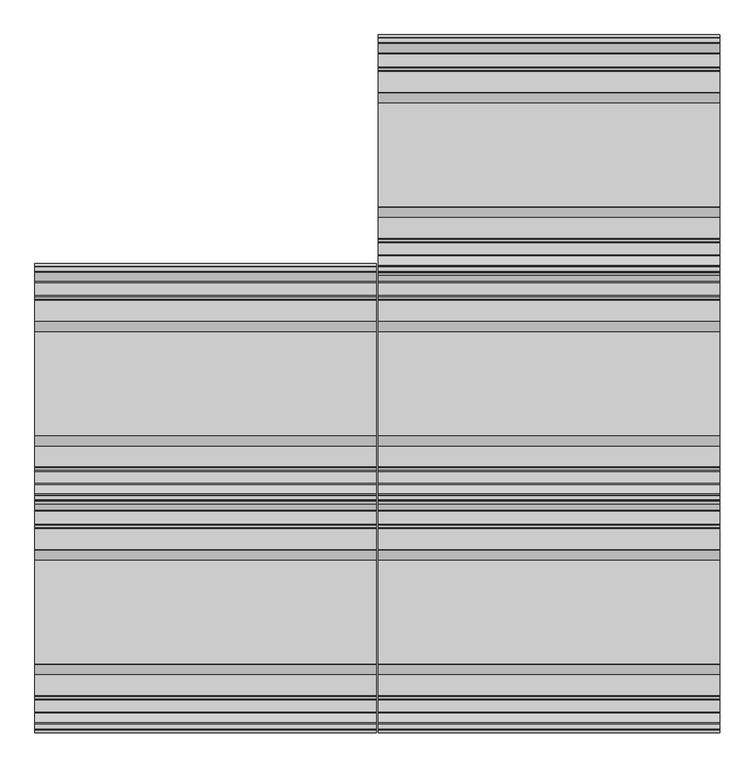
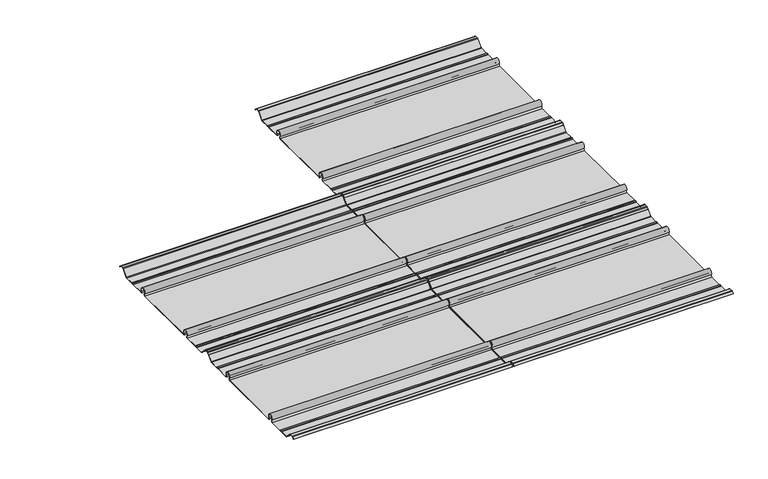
"""IFC4 building model written with IfcOpenShell, lengths in millimetres: proxy geometry, Xlath : Xlath."""

import ifcopenshell
import ifcopenshell.guid

model = None  # the IFC model being written
_history = None  # IfcOwnerHistory: only IFC2X3 demands one
_inside = {}  # id of a spatial element -> (the spatial element, [elements in it])
_under = {}  # id of a project, library or spatial element -> (it, [spatial elements below it])
_declared = {}  # id of a project -> (the project, [libraries it declares])
_typed = {}  # id of a type object -> (the type object, [elements of that type])
_made_of = {}  # id of a material, layer set ... -> (it, [elements and type objects made of it])


def new_model(schema):
    """Start an empty IFC model of exactly this schema.

    Asked for "IFC4X3", IfcOpenShell would pick the latest addendum, in which some entities
    have other attributes; the version numbers below select the first issue.
    IFC2X3 requires an IfcOwnerHistory on every rooted entity: one is made here for all.
    """
    global model, _history
    if schema == "IFC4X3":
        model = ifcopenshell.file(schema_version=(4, 3, 0, 0))
    else:
        model = ifcopenshell.file(schema=schema)
    _inside.clear()
    _under.clear()
    _declared.clear()
    _typed.clear()
    _made_of.clear()
    _history = None
    if model.schema == "IFC2X3":
        org = make("IfcOrganization", Name="unknown")
        user = make(
            "IfcPersonAndOrganization",
            ThePerson=make("IfcPerson", FamilyName="unknown"),
            TheOrganization=org,
        )
        app = make(
            "IfcApplication",
            ApplicationDeveloper=org,
            Version="unknown",
            ApplicationFullName="unknown",
            ApplicationIdentifier="unknown",
        )
        _history = make(
            "IfcOwnerHistory",
            OwningUser=user,
            OwningApplication=app,
            ChangeAction="ADDED",
            CreationDate=0,
        )
    return model


def make(cls, **values):
    """One entity of the class cls with the attributes given. An attribute that is None is left unset."""
    return model.create_entity(
        cls, **{name: value for name, value in values.items() if value is not None}
    )


def rooted(cls, **values):
    """An entity with a GlobalId (a new one), such as an element, a storey or a relation."""
    return make(cls, GlobalId=ifcopenshell.guid.new(), OwnerHistory=_history, **values)


def si_unit(unit_type, name, prefix=None):
    """IfcSIUnit, for example si_unit("LENGTHUNIT", "METRE", prefix="MILLI")."""
    return make("IfcSIUnit", UnitType=unit_type, Prefix=prefix, Name=name)


def assignment(units):
    """IfcUnitAssignment: the units of a project."""
    return None if units is None else make("IfcUnitAssignment", Units=units)


def point(xyz):
    """IfcCartesianPoint."""
    return None if xyz is None else make("IfcCartesianPoint", Coordinates=xyz)


def direction(xyz):
    """IfcDirection."""
    return None if xyz is None else make("IfcDirection", DirectionRatios=xyz)


def frame(location, z_axis=None, x_axis=None):
    """IfcAxis2Placement3D, a coordinate frame: its origin and axes. An axis left out is left unset."""
    return make(
        "IfcAxis2Placement3D",
        Location=point(location),
        Axis=direction(z_axis),
        RefDirection=direction(x_axis),
    )


def frame_2d(location, x_axis=None):
    """IfcAxis2Placement2D, a coordinate frame in the plane: its origin and x axis."""
    return make(
        "IfcAxis2Placement2D", Location=point(location), RefDirection=direction(x_axis)
    )


def origin():
    """The frame at (0, 0, 0) with its axes left unset."""
    return frame((0.0, 0.0, 0.0))


def place(relative_to, where):
    """IfcLocalPlacement: puts the frame where relative to a parent placement (None: the world)."""
    return make(
        "IfcLocalPlacement", PlacementRelTo=relative_to, RelativePlacement=where
    )


def context(
    kind, dimensions, precision=None, world=None, true_north=None, identifier=None
):
    """IfcGeometricRepresentationContext, for example the 3D "Model" context."""
    return make(
        "IfcGeometricRepresentationContext",
        ContextIdentifier=identifier,
        ContextType=kind,
        CoordinateSpaceDimension=dimensions,
        Precision=precision,
        WorldCoordinateSystem=world,
        TrueNorth=true_north,
    )


def project(units=None, contexts=None):
    """IfcProject with its units and contexts."""
    return rooted(
        "IfcProject",
        Name="project",
        RepresentationContexts=contexts,
        UnitsInContext=assignment(units),
    )


def spatial(cls, under=None, at=None, **own):
    """A site, building, storey or space (cls), placed at a placement, below another one or the project."""
    s = rooted(cls, ObjectPlacement=at, **own)
    if under is not None:
        _under.setdefault(under.id(), (under, []))[1].append(s)
    return s


def polyline(points):
    """IfcPolyline through the points."""
    return make("IfcPolyline", Points=[point(p) for p in points])


def circle_curve(where, radius):
    """IfcCircle in the frame where."""
    return make("IfcCircle", Position=where, Radius=radius)


def trimmed(basis, trim1, trim2, sense, master):
    """IfcTrimmedCurve: the piece of a basis curve between two trims."""
    return make(
        "IfcTrimmedCurve",
        BasisCurve=basis,
        Trim1=trim1,
        Trim2=trim2,
        SenseAgreement=sense,
        MasterRepresentation=master,
    )


def segment(curve, same_sense, transition):
    """IfcCompositeCurveSegment."""
    return make(
        "IfcCompositeCurveSegment",
        Transition=transition,
        SameSense=same_sense,
        ParentCurve=curve,
    )


def composite_curve(segments, self_intersect=None):
    """IfcCompositeCurve: segments joined end to end."""
    return make("IfcCompositeCurve", Segments=segments, SelfIntersect=self_intersect)


def outline(outer, holes=None, kind="AREA"):
    """IfcArbitraryClosedProfileDef: a profile drawn as a closed curve; with holes, ...WithVoids."""
    if holes is None:
        return make("IfcArbitraryClosedProfileDef", ProfileType=kind, OuterCurve=outer)
    return make(
        "IfcArbitraryProfileDefWithVoids",
        ProfileType=kind,
        OuterCurve=outer,
        InnerCurves=holes,
    )


def extrude(swept, where, along, depth):
    """IfcExtrudedAreaSolid: the profile swept, set in the frame where, extruded along a direction by depth."""
    return make(
        "IfcExtrudedAreaSolid",
        SweptArea=swept,
        Position=where,
        ExtrudedDirection=direction(along),
        Depth=depth,
    )


def shape(context_of_items, identifier, shape_type, items):
    """IfcShapeRepresentation: the items that make up one representation, for example the "Body"."""
    return make(
        "IfcShapeRepresentation",
        ContextOfItems=context_of_items,
        RepresentationIdentifier=identifier,
        RepresentationType=shape_type,
        Items=items,
    )


def source(mapping_origin, context_of_items, identifier, shape_type, items):
    """IfcRepresentationMap: a shape defined once, which mapped items show again and again."""
    return make(
        "IfcRepresentationMap",
        MappingOrigin=mapping_origin,
        MappedRepresentation=shape(context_of_items, identifier, shape_type, items),
    )


def transform(
    local_origin,
    x_axis=None,
    y_axis=None,
    z_axis=None,
    scale=None,
    scale2=None,
    scale3=None,
    uniform=True,
):
    """IfcCartesianTransformationOperator3D, or its non-uniform kind. x_axis, y_axis, z_axis: its Axis1, 2, 3."""
    if uniform:
        return make(
            "IfcCartesianTransformationOperator3D",
            Axis1=direction(x_axis),
            Axis2=direction(y_axis),
            LocalOrigin=point(local_origin),
            Scale=scale,
            Axis3=direction(z_axis),
        )
    return make(
        "IfcCartesianTransformationOperator3DnonUniform",
        Axis1=direction(x_axis),
        Axis2=direction(y_axis),
        LocalOrigin=point(local_origin),
        Scale=scale,
        Axis3=direction(z_axis),
        Scale2=scale2,
        Scale3=scale3,
    )


def mapped(mapping_source, mapping_target):
    """IfcMappedItem: shows the shape of a source again, moved by a transform."""
    return make(
        "IfcMappedItem", MappingSource=mapping_source, MappingTarget=mapping_target
    )


def made_of(thing, what):
    """Note that an element or type object is made of a material, layer set ...; save() writes the relation."""
    if what is not None:
        _made_of.setdefault(what.id(), (what, []))[1].append(thing)
    return thing


def element(
    cls,
    number,
    at=None,
    inside=None,
    cuts=None,
    type_object=None,
    material=None,
    context=None,
    identifier="Body",
    shape_type=None,
    held_by="IfcProductDefinitionShape",
    body=None,
    shapes=None,
    **own,
):
    """One element of the class cls, such as IfcWall. Its Tag is "e" and its number.

    at: its placement. inside: the storey or other place that contains it. cuts: it is an
    opening in that element (IfcRelVoidsElement). A single representation is given by context,
    identifier, shape_type and body (its items); several are given by shapes. held_by: the class
    of the entity that holds the representations. save() writes the other relations.
    """
    e = rooted(cls, Tag="e%d" % number, ObjectPlacement=at, **own)
    if body is not None:
        shapes = [shape(context, identifier, shape_type, body)]
    if shapes is not None:
        e.Representation = make(held_by, Representations=shapes)
    if inside is not None:
        _inside.setdefault(inside.id(), (inside, []))[1].append(e)
    if cuts is not None:
        rooted(
            "IfcRelVoidsElement", RelatingBuildingElement=cuts, RelatedOpeningElement=e
        )
    if type_object is not None:
        _typed.setdefault(type_object.id(), (type_object, []))[1].append(e)
    return made_of(e, material)


def aggregate(whole, parts):
    """IfcRelAggregates: a whole, such as a stair, and the parts it consists of."""
    return rooted("IfcRelAggregates", RelatingObject=whole, RelatedObjects=parts)


def save(model, path):
    """Write the relations noted so far, then the file.

    IfcRelAggregates (storeys below a building ...), IfcRelContainedInSpatialStructure (elements
    in a storey), IfcRelDefinesByType, IfcRelAssociatesMaterial and IfcRelDeclares: one each for
    every whole, place, type object, material and project.
    """
    for whole, parts in _under.values():
        aggregate(whole, parts)
    for where, things in _inside.values():
        rooted(
            "IfcRelContainedInSpatialStructure",
            RelatedElements=things,
            RelatingStructure=where,
        )
    for kind, things in _typed.values():
        rooted("IfcRelDefinesByType", RelatedObjects=things, RelatingType=kind)
    for what, things in _made_of.values():
        rooted("IfcRelAssociatesMaterial", RelatedObjects=things, RelatingMaterial=what)
    for by, libraries in _declared.values():
        rooted("IfcRelDeclares", RelatingContext=by, RelatedDefinitions=libraries)
    model.write(path)


def generic_models_a1b09e0d(model_context):
    return source(origin(), model_context, "Body", "SweptSolid", [
        extrude(outline(composite_curve([segment(polyline([(-1223.221536, 17.692427), (-1219.2, 13.8209287), (-1219.7628134, 13.2581153), (-1224.0173305, 17.3539026)]), True, "CONTINUOUS"), segment(trimmed(circle_curve(frame_2d((-1225.8934261, 15.4051)), 2.7051), [point((-1224.0173305, 17.3539026))], [point((-1225.8934261, 18.1102))], True, "CARTESIAN"), True, "CONTINUOUS"), segment(polyline([(-1225.8934261, 18.1102), (-1233.0817457, 18.1102)]), True, "CONTINUOUS"), segment(trimmed(circle_curve(frame_2d((-1233.0817457, 15.4051)), 2.7051), [point((-1233.0817457, 18.1102))], [point((-1235.0059623, 17.3064039))], True, "CARTESIAN"), True, "CONTINUOUS"), segment(polyline([(-1235.0059623, 17.3064039), (-1251.1741011, 0.9434226)]), True, "CONTINUOUS"), segment(trimmed(circle_curve(frame_2d((-1253.4325712, 3.175)), 3.175), [point((-1251.1741011, 0.9434226))], [point((-1253.4325712, 0.0))], False, "CARTESIAN"), True, "CONTINUOUS"), segment(polyline([(-1253.4325712, 0.0), (-1276.5486405, 0.0)]), True, "CONTINUOUS"), segment(trimmed(circle_curve(frame_2d((-1276.5486405, 3.175)), 3.175), [point((-1276.5486405, 0.0))], [point((-1278.5419174, 0.70367))], False, "CARTESIAN"), True, "CONTINUOUS"), segment(trimmed(circle_curve(frame_2d((-1280.5351943, -1.7676601)), 3.175), [point((-1278.5419174, 0.70367))], [point((-1282.5284712, 0.70367))], True, "CARTESIAN"), True, "CONTINUOUS"), segment(trimmed(circle_curve(frame_2d((-1284.5217481, 3.175)), 3.175), [point((-1282.5284712, 0.70367))], [point((-1284.5217481, 0.0))], False, "CARTESIAN"), True, "CONTINUOUS"), segment(polyline([(-1284.5217481, 0.0), (-1321.79972, 0.0)]), True, "CONTINUOUS"), segment(trimmed(circle_curve(frame_2d((-1321.79972, 3.3362305)), 3.3362305), [point((-1321.79972, 0.0))], [point((-1324.4911698, 5.3076593))], False, "CARTESIAN"), True, "CONTINUOUS"), segment(trimmed(circle_curve(frame_2d((-1331.0031627, 10.0775533)), 8.0720469), [point((-1324.4911698, 5.3076593))], [point((-1337.5151555, 5.3076593))], True, "CARTESIAN"), True, "CONTINUOUS"), segment(trimmed(circle_curve(frame_2d((-1340.2066054, 3.3362305)), 3.3362305), [point((-1337.5151555, 5.3076593))], [point((-1340.2066054, 0.0))], False, "CARTESIAN"), True, "CONTINUOUS"), segment(polyline([(-1340.2066054, 0.0), (-1525.2308946, 0.0)]), True, "CONTINUOUS"), segment(trimmed(circle_curve(frame_2d((-1525.2308946, 3.3362305)), 3.3362305), [point((-1525.2308946, 0.0))], [point((-1527.9223445, 5.3076593))], False, "CARTESIAN"), True, "CONTINUOUS"), segment(trimmed(circle_curve(frame_2d((-1534.4343373, 10.0775533)), 8.0720469), [point((-1527.9223445, 5.3076593))], [point((-1540.9463302, 5.3076593))], True, "CARTESIAN"), True, "CONTINUOUS"), segment(trimmed(circle_curve(frame_2d((-1543.63778, 3.3362305)), 3.3362305), [point((-1540.9463302, 5.3076593))], [point((-1543.63778, 0.0))], False, "CARTESIAN"), True, "CONTINUOUS"), segment(polyline([(-1543.63778, 0.0), (-1580.9157519, 0.0)]), True, "CONTINUOUS"), segment(trimmed(circle_curve(frame_2d((-1580.9157519, 3.175)), 3.175), [point((-1580.9157519, 0.0))], [point((-1582.9090288, 0.70367))], False, "CARTESIAN"), True, "CONTINUOUS"), segment(trimmed(circle_curve(frame_2d((-1584.9023057, -1.7676601)), 3.175), [point((-1582.9090288, 0.70367))], [point((-1586.8955826, 0.70367))], True, "CARTESIAN"), True, "CONTINUOUS"), segment(trimmed(circle_curve(frame_2d((-1588.8888595, 3.175)), 3.175), [point((-1586.8955826, 0.70367))], [point((-1588.8888595, 0.0))], False, "CARTESIAN"), True, "CONTINUOUS"), segment(polyline([(-1588.8888595, 0.0), (-1610.2183557, 0.0)]), True, "CONTINUOUS"), segment(trimmed(circle_curve(frame_2d((-1610.2183557, 3.175)), 3.175), [point((-1610.2183557, 0.0))], [point((-1612.4768259, 0.9434226))], False, "CARTESIAN"), True, "CONTINUOUS"), segment(polyline([(-1612.4768259, 0.9434226), (-1629.1092693, 17.7763039)]), True, "CONTINUOUS"), segment(trimmed(circle_curve(frame_2d((-1631.0334859, 15.875)), 2.7051), [point((-1629.1092693, 17.7763039))], [point((-1631.0334859, 18.5801))], True, "CARTESIAN"), True, "CONTINUOUS"), segment(polyline([(-1631.0334859, 18.5801), (-1639.5440739, 18.5801)]), True, "CONTINUOUS"), segment(trimmed(circle_curve(frame_2d((-1639.5440739, 15.875)), 2.7051), [point((-1639.5440739, 18.5801))], [point((-1641.4201695, 17.8238026))], True, "CARTESIAN"), True, "CONTINUOUS"), segment(polyline([(-1641.4201695, 17.8238026), (-1645.6855845, 13.717524), (-1646.2483979, 14.2803374), (-1642.215964, 18.162327)]), True, "CONTINUOUS"), segment(trimmed(circle_curve(frame_2d((-1640.0139739, 15.875)), 3.175), [point((-1642.215964, 18.162327))], [point((-1640.0139739, 19.05))], False, "CARTESIAN"), True, "CONTINUOUS"), segment(polyline([(-1640.0139739, 19.05), (-1631.0334859, 19.05)]), True, "CONTINUOUS"), segment(trimmed(circle_curve(frame_2d((-1631.0334859, 15.875)), 3.175), [point((-1631.0334859, 19.05))], [point((-1628.7750157, 18.1065774))], False, "CARTESIAN"), True, "CONTINUOUS"), segment(polyline([(-1628.7750157, 18.1065774), (-1612.1425723, 1.2736961)]), True, "CONTINUOUS"), segment(trimmed(circle_curve(frame_2d((-1610.2183557, 3.175)), 2.7051), [point((-1612.1425723, 1.2736961))], [point((-1610.2183557, 0.4699))], True, "CARTESIAN"), True, "CONTINUOUS"), segment(polyline([(-1610.2183557, 0.4699), (-1589.0514296, 0.4699)]), True, "CONTINUOUS"), segment(trimmed(circle_curve(frame_2d((-1589.0514296, 3.6449)), 3.175), [point((-1589.0514296, 0.4699))], [point((-1587.1198077, 1.1250862))], True, "CARTESIAN"), True, "CONTINUOUS"), segment(trimmed(circle_curve(frame_2d((-1584.9023057, -1.7676601)), 3.6449), [point((-1587.1198077, 1.1250862))], [point((-1582.6848037, 1.1250862))], False, "CARTESIAN"), True, "CONTINUOUS"), segment(trimmed(circle_curve(frame_2d((-1580.7531818, 3.6449)), 3.175), [point((-1582.6848037, 1.1250862))], [point((-1580.7531818, 0.4699))], True, "CARTESIAN"), True, "CONTINUOUS"), segment(polyline([(-1580.7531818, 0.4699), (-1543.63778, 0.4699)]), True, "CONTINUOUS"), segment(trimmed(circle_curve(frame_2d((-1543.63778, 3.3362305)), 2.8663305), [point((-1543.63778, 0.4699))], [point((-1541.3254144, 5.0299883))], True, "CARTESIAN"), True, "CONTINUOUS"), segment(trimmed(circle_curve(frame_2d((-1534.4343373, 10.0775533)), 8.5419469), [point((-1541.3254144, 5.0299883))], [point((-1527.5432603, 5.0299883))], False, "CARTESIAN"), True, "CONTINUOUS"), segment(trimmed(circle_curve(frame_2d((-1525.2308946, 3.3362305)), 2.8663305), [point((-1527.5432603, 5.0299883))], [point((-1525.2308946, 0.4699))], True, "CARTESIAN"), True, "CONTINUOUS"), segment(polyline([(-1525.2308946, 0.4699), (-1340.2066054, 0.4699)]), True, "CONTINUOUS"), segment(trimmed(circle_curve(frame_2d((-1340.2066054, 3.3362305)), 2.8663305), [point((-1340.2066054, 0.4699))], [point((-1337.8942397, 5.0299883))], True, "CARTESIAN"), True, "CONTINUOUS"), segment(trimmed(circle_curve(frame_2d((-1331.0031627, 10.0775533)), 8.5419469), [point((-1337.8942397, 5.0299883))], [point((-1324.1120856, 5.0299883))], False, "CARTESIAN"), True, "CONTINUOUS"), segment(trimmed(circle_curve(frame_2d((-1321.79972, 3.3362305)), 2.8663305), [point((-1324.1120856, 5.0299883))], [point((-1321.79972, 0.4699))], True, "CARTESIAN"), True, "CONTINUOUS"), segment(polyline([(-1321.79972, 0.4699), (-1284.6843182, 0.4699)]), True, "CONTINUOUS"), segment(trimmed(circle_curve(frame_2d((-1284.6843182, 3.6449)), 3.175), [point((-1284.6843182, 0.4699))], [point((-1282.7526963, 1.1250862))], True, "CARTESIAN"), True, "CONTINUOUS"), segment(trimmed(circle_curve(frame_2d((-1280.5351943, -1.7676601)), 3.6449), [point((-1282.7526963, 1.1250862))], [point((-1278.3176923, 1.1250862))], False, "CARTESIAN"), True, "CONTINUOUS"), segment(trimmed(circle_curve(frame_2d((-1276.3860704, 3.6449)), 3.175), [point((-1278.3176923, 1.1250862))], [point((-1276.3860704, 0.4699))], True, "CARTESIAN"), True, "CONTINUOUS"), segment(polyline([(-1276.3860704, 0.4699), (-1253.4325712, 0.4699)]), True, "CONTINUOUS"), segment(trimmed(circle_curve(frame_2d((-1253.4325712, 3.175)), 2.7051), [point((-1253.4325712, 0.4699))], [point((-1251.5083547, 1.2736961))], True, "CARTESIAN"), True, "CONTINUOUS"), segment(polyline([(-1251.5083547, 1.2736961), (-1235.3402159, 17.6366774)]), True, "CONTINUOUS"), segment(trimmed(circle_curve(frame_2d((-1233.0817457, 15.4051)), 3.175), [point((-1235.3402159, 17.6366774))], [point((-1233.0817457, 18.5801))], False, "CARTESIAN"), True, "CONTINUOUS"), segment(polyline([(-1233.0817457, 18.5801), (-1225.4235261, 18.5801)]), True, "CONTINUOUS"), segment(trimmed(circle_curve(frame_2d((-1225.4235261, 15.4051)), 3.175), [point((-1225.4235261, 18.5801))], [point((-1223.221536, 17.692427))], False, "CARTESIAN"), True, "CONTINUOUS")], self_intersect=False)), frame((609.6, 0.0, 0.0), z_axis=(1.0, 0.0, 0.0), x_axis=(0.0, 1.0, 0.0)), (0.0, 0.0, 1.0), 606.425),
        extrude(outline(composite_curve([segment(polyline([(-1223.221536, 17.692427), (-1219.2, 13.8209287), (-1219.7628134, 13.2581153), (-1224.0173305, 17.3539026)]), True, "CONTINUOUS"), segment(trimmed(circle_curve(frame_2d((-1225.8934261, 15.4051)), 2.7051), [point((-1224.0173305, 17.3539026))], [point((-1225.8934261, 18.1102))], True, "CARTESIAN"), True, "CONTINUOUS"), segment(polyline([(-1225.8934261, 18.1102), (-1233.0817457, 18.1102)]), True, "CONTINUOUS"), segment(trimmed(circle_curve(frame_2d((-1233.0817457, 15.4051)), 2.7051), [point((-1233.0817457, 18.1102))], [point((-1235.0059623, 17.3064039))], True, "CARTESIAN"), True, "CONTINUOUS"), segment(polyline([(-1235.0059623, 17.3064039), (-1251.1741011, 0.9434226)]), True, "CONTINUOUS"), segment(trimmed(circle_curve(frame_2d((-1253.4325712, 3.175)), 3.175), [point((-1251.1741011, 0.9434226))], [point((-1253.4325712, 0.0))], False, "CARTESIAN"), True, "CONTINUOUS"), segment(polyline([(-1253.4325712, 0.0), (-1276.5486405, 0.0)]), True, "CONTINUOUS"), segment(trimmed(circle_curve(frame_2d((-1276.5486405, 3.175)), 3.175), [point((-1276.5486405, 0.0))], [point((-1278.5419174, 0.70367))], False, "CARTESIAN"), True, "CONTINUOUS"), segment(trimmed(circle_curve(frame_2d((-1280.5351943, -1.7676601)), 3.175), [point((-1278.5419174, 0.70367))], [point((-1282.5284712, 0.70367))], True, "CARTESIAN"), True, "CONTINUOUS"), segment(trimmed(circle_curve(frame_2d((-1284.5217481, 3.175)), 3.175), [point((-1282.5284712, 0.70367))], [point((-1284.5217481, 0.0))], False, "CARTESIAN"), True, "CONTINUOUS"), segment(polyline([(-1284.5217481, 0.0), (-1321.79972, 0.0)]), True, "CONTINUOUS"), segment(trimmed(circle_curve(frame_2d((-1321.79972, 3.3362305)), 3.3362305), [point((-1321.79972, 0.0))], [point((-1324.4911698, 5.3076593))], False, "CARTESIAN"), True, "CONTINUOUS"), segment(trimmed(circle_curve(frame_2d((-1331.0031627, 10.0775533)), 8.0720469), [point((-1324.4911698, 5.3076593))], [point((-1337.5151555, 5.3076593))], True, "CARTESIAN"), True, "CONTINUOUS"), segment(trimmed(circle_curve(frame_2d((-1340.2066054, 3.3362305)), 3.3362305), [point((-1337.5151555, 5.3076593))], [point((-1340.2066054, 0.0))], False, "CARTESIAN"), True, "CONTINUOUS"), segment(polyline([(-1340.2066054, 0.0), (-1525.2308946, 0.0)]), True, "CONTINUOUS"), segment(trimmed(circle_curve(frame_2d((-1525.2308946, 3.3362305)), 3.3362305), [point((-1525.2308946, 0.0))], [point((-1527.9223445, 5.3076593))], False, "CARTESIAN"), True, "CONTINUOUS"), segment(trimmed(circle_curve(frame_2d((-1534.4343373, 10.0775533)), 8.0720469), [point((-1527.9223445, 5.3076593))], [point((-1540.9463302, 5.3076593))], True, "CARTESIAN"), True, "CONTINUOUS"), segment(trimmed(circle_curve(frame_2d((-1543.63778, 3.3362305)), 3.3362305), [point((-1540.9463302, 5.3076593))], [point((-1543.63778, 0.0))], False, "CARTESIAN"), True, "CONTINUOUS"), segment(polyline([(-1543.63778, 0.0), (-1580.9157519, 0.0)]), True, "CONTINUOUS"), segment(trimmed(circle_curve(frame_2d((-1580.9157519, 3.175)), 3.175), [point((-1580.9157519, 0.0))], [point((-1582.9090288, 0.70367))], False, "CARTESIAN"), True, "CONTINUOUS"), segment(trimmed(circle_curve(frame_2d((-1584.9023057, -1.7676601)), 3.175), [point((-1582.9090288, 0.70367))], [point((-1586.8955826, 0.70367))], True, "CARTESIAN"), True, "CONTINUOUS"), segment(trimmed(circle_curve(frame_2d((-1588.8888595, 3.175)), 3.175), [point((-1586.8955826, 0.70367))], [point((-1588.8888595, 0.0))], False, "CARTESIAN"), True, "CONTINUOUS"), segment(polyline([(-1588.8888595, 0.0), (-1610.2183557, 0.0)]), True, "CONTINUOUS"), segment(trimmed(circle_curve(frame_2d((-1610.2183557, 3.175)), 3.175), [point((-1610.2183557, 0.0))], [point((-1612.4768259, 0.9434226))], False, "CARTESIAN"), True, "CONTINUOUS"), segment(polyline([(-1612.4768259, 0.9434226), (-1629.1092693, 17.7763039)]), True, "CONTINUOUS"), segment(trimmed(circle_curve(frame_2d((-1631.0334859, 15.875)), 2.7051), [point((-1629.1092693, 17.7763039))], [point((-1631.0334859, 18.5801))], True, "CARTESIAN"), True, "CONTINUOUS"), segment(polyline([(-1631.0334859, 18.5801), (-1639.5440739, 18.5801)]), True, "CONTINUOUS"), segment(trimmed(circle_curve(frame_2d((-1639.5440739, 15.875)), 2.7051), [point((-1639.5440739, 18.5801))], [point((-1641.4201695, 17.8238026))], True, "CARTESIAN"), True, "CONTINUOUS"), segment(polyline([(-1641.4201695, 17.8238026), (-1645.6855845, 13.717524), (-1646.2483979, 14.2803374), (-1642.215964, 18.162327)]), True, "CONTINUOUS"), segment(trimmed(circle_curve(frame_2d((-1640.0139739, 15.875)), 3.175), [point((-1642.215964, 18.162327))], [point((-1640.0139739, 19.05))], False, "CARTESIAN"), True, "CONTINUOUS"), segment(polyline([(-1640.0139739, 19.05), (-1631.0334859, 19.05)]), True, "CONTINUOUS"), segment(trimmed(circle_curve(frame_2d((-1631.0334859, 15.875)), 3.175), [point((-1631.0334859, 19.05))], [point((-1628.7750157, 18.1065774))], False, "CARTESIAN"), True, "CONTINUOUS"), segment(polyline([(-1628.7750157, 18.1065774), (-1612.1425723, 1.2736961)]), True, "CONTINUOUS"), segment(trimmed(circle_curve(frame_2d((-1610.2183557, 3.175)), 2.7051), [point((-1612.1425723, 1.2736961))], [point((-1610.2183557, 0.4699))], True, "CARTESIAN"), True, "CONTINUOUS"), segment(polyline([(-1610.2183557, 0.4699), (-1589.0514296, 0.4699)]), True, "CONTINUOUS"), segment(trimmed(circle_curve(frame_2d((-1589.0514296, 3.6449)), 3.175), [point((-1589.0514296, 0.4699))], [point((-1587.1198077, 1.1250862))], True, "CARTESIAN"), True, "CONTINUOUS"), segment(trimmed(circle_curve(frame_2d((-1584.9023057, -1.7676601)), 3.6449), [point((-1587.1198077, 1.1250862))], [point((-1582.6848037, 1.1250862))], False, "CARTESIAN"), True, "CONTINUOUS"), segment(trimmed(circle_curve(frame_2d((-1580.7531818, 3.6449)), 3.175), [point((-1582.6848037, 1.1250862))], [point((-1580.7531818, 0.4699))], True, "CARTESIAN"), True, "CONTINUOUS"), segment(polyline([(-1580.7531818, 0.4699), (-1543.63778, 0.4699)]), True, "CONTINUOUS"), segment(trimmed(circle_curve(frame_2d((-1543.63778, 3.3362305)), 2.8663305), [point((-1543.63778, 0.4699))], [point((-1541.3254144, 5.0299883))], True, "CARTESIAN"), True, "CONTINUOUS"), segment(trimmed(circle_curve(frame_2d((-1534.4343373, 10.0775533)), 8.5419469), [point((-1541.3254144, 5.0299883))], [point((-1527.5432603, 5.0299883))], False, "CARTESIAN"), True, "CONTINUOUS"), segment(trimmed(circle_curve(frame_2d((-1525.2308946, 3.3362305)), 2.8663305), [point((-1527.5432603, 5.0299883))], [point((-1525.2308946, 0.4699))], True, "CARTESIAN"), True, "CONTINUOUS"), segment(polyline([(-1525.2308946, 0.4699), (-1340.2066054, 0.4699)]), True, "CONTINUOUS"), segment(trimmed(circle_curve(frame_2d((-1340.2066054, 3.3362305)), 2.8663305), [point((-1340.2066054, 0.4699))], [point((-1337.8942397, 5.0299883))], True, "CARTESIAN"), True, "CONTINUOUS"), segment(trimmed(circle_curve(frame_2d((-1331.0031627, 10.0775533)), 8.5419469), [point((-1337.8942397, 5.0299883))], [point((-1324.1120856, 5.0299883))], False, "CARTESIAN"), True, "CONTINUOUS"), segment(trimmed(circle_curve(frame_2d((-1321.79972, 3.3362305)), 2.8663305), [point((-1324.1120856, 5.0299883))], [point((-1321.79972, 0.4699))], True, "CARTESIAN"), True, "CONTINUOUS"), segment(polyline([(-1321.79972, 0.4699), (-1284.6843182, 0.4699)]), True, "CONTINUOUS"), segment(trimmed(circle_curve(frame_2d((-1284.6843182, 3.6449)), 3.175), [point((-1284.6843182, 0.4699))], [point((-1282.7526963, 1.1250862))], True, "CARTESIAN"), True, "CONTINUOUS"), segment(trimmed(circle_curve(frame_2d((-1280.5351943, -1.7676601)), 3.6449), [point((-1282.7526963, 1.1250862))], [point((-1278.3176923, 1.1250862))], False, "CARTESIAN"), True, "CONTINUOUS"), segment(trimmed(circle_curve(frame_2d((-1276.3860704, 3.6449)), 3.175), [point((-1278.3176923, 1.1250862))], [point((-1276.3860704, 0.4699))], True, "CARTESIAN"), True, "CONTINUOUS"), segment(polyline([(-1276.3860704, 0.4699), (-1253.4325712, 0.4699)]), True, "CONTINUOUS"), segment(trimmed(circle_curve(frame_2d((-1253.4325712, 3.175)), 2.7051), [point((-1253.4325712, 0.4699))], [point((-1251.5083547, 1.2736961))], True, "CARTESIAN"), True, "CONTINUOUS"), segment(polyline([(-1251.5083547, 1.2736961), (-1235.3402159, 17.6366774)]), True, "CONTINUOUS"), segment(trimmed(circle_curve(frame_2d((-1233.0817457, 15.4051)), 3.175), [point((-1235.3402159, 17.6366774))], [point((-1233.0817457, 18.5801))], False, "CARTESIAN"), True, "CONTINUOUS"), segment(polyline([(-1233.0817457, 18.5801), (-1225.4235261, 18.5801)]), True, "CONTINUOUS"), segment(trimmed(circle_curve(frame_2d((-1225.4235261, 15.4051)), 3.175), [point((-1225.4235261, 18.5801))], [point((-1223.221536, 17.692427))], False, "CARTESIAN"), True, "CONTINUOUS")], self_intersect=False)), frame((0.0, 0.0, 0.0), z_axis=(1.0, 0.0, 0.0), x_axis=(0.0, 1.0, 0.0)), (0.0, 0.0, 1.0), 606.425),
        extrude(outline(composite_curve([segment(polyline([(-816.821536, 17.692427), (-812.8, 13.8209287), (-813.3628134, 13.2581153), (-817.6173305, 17.3539026)]), True, "CONTINUOUS"), segment(trimmed(circle_curve(frame_2d((-819.4934261, 15.4051)), 2.7051), [point((-817.6173305, 17.3539026))], [point((-819.4934261, 18.1102))], True, "CARTESIAN"), True, "CONTINUOUS"), segment(polyline([(-819.4934261, 18.1102), (-826.6817457, 18.1102)]), True, "CONTINUOUS"), segment(trimmed(circle_curve(frame_2d((-826.6817457, 15.4051)), 2.7051), [point((-826.6817457, 18.1102))], [point((-828.6059623, 17.3064039))], True, "CARTESIAN"), True, "CONTINUOUS"), segment(polyline([(-828.6059623, 17.3064039), (-844.7741011, 0.9434226)]), True, "CONTINUOUS"), segment(trimmed(circle_curve(frame_2d((-847.0325712, 3.175)), 3.175), [point((-844.7741011, 0.9434226))], [point((-847.0325712, 0.0))], False, "CARTESIAN"), True, "CONTINUOUS"), segment(polyline([(-847.0325712, 0.0), (-870.1486405, 0.0)]), True, "CONTINUOUS"), segment(trimmed(circle_curve(frame_2d((-870.1486405, 3.175)), 3.175), [point((-870.1486405, 0.0))], [point((-872.1419174, 0.70367))], False, "CARTESIAN"), True, "CONTINUOUS"), segment(trimmed(circle_curve(frame_2d((-874.1351943, -1.7676601)), 3.175), [point((-872.1419174, 0.70367))], [point((-876.1284712, 0.70367))], True, "CARTESIAN"), True, "CONTINUOUS"), segment(trimmed(circle_curve(frame_2d((-878.1217481, 3.175)), 3.175), [point((-876.1284712, 0.70367))], [point((-878.1217481, 0.0))], False, "CARTESIAN"), True, "CONTINUOUS"), segment(polyline([(-878.1217481, 0.0), (-915.39972, 0.0)]), True, "CONTINUOUS"), segment(trimmed(circle_curve(frame_2d((-915.39972, 3.3362305)), 3.3362305), [point((-915.39972, 0.0))], [point((-918.0911698, 5.3076593))], False, "CARTESIAN"), True, "CONTINUOUS"), segment(trimmed(circle_curve(frame_2d((-924.6031627, 10.0775533)), 8.0720469), [point((-918.0911698, 5.3076593))], [point((-931.1151555, 5.3076593))], True, "CARTESIAN"), True, "CONTINUOUS"), segment(trimmed(circle_curve(frame_2d((-933.8066054, 3.3362305)), 3.3362305), [point((-931.1151555, 5.3076593))], [point((-933.8066054, 0.0))], False, "CARTESIAN"), True, "CONTINUOUS"), segment(polyline([(-933.8066054, 0.0), (-1118.8308946, 0.0)]), True, "CONTINUOUS"), segment(trimmed(circle_curve(frame_2d((-1118.8308946, 3.3362305)), 3.3362305), [point((-1118.8308946, 0.0))], [point((-1121.5223445, 5.3076593))], False, "CARTESIAN"), True, "CONTINUOUS"), segment(trimmed(circle_curve(frame_2d((-1128.0343373, 10.0775533)), 8.0720469), [point((-1121.5223445, 5.3076593))], [point((-1134.5463302, 5.3076593))], True, "CARTESIAN"), True, "CONTINUOUS"), segment(trimmed(circle_curve(frame_2d((-1137.23778, 3.3362305)), 3.3362305), [point((-1134.5463302, 5.3076593))], [point((-1137.23778, 0.0))], False, "CARTESIAN"), True, "CONTINUOUS"), segment(polyline([(-1137.23778, 0.0), (-1174.5157519, 0.0)]), True, "CONTINUOUS"), segment(trimmed(circle_curve(frame_2d((-1174.5157519, 3.175)), 3.175), [point((-1174.5157519, 0.0))], [point((-1176.5090288, 0.70367))], False, "CARTESIAN"), True, "CONTINUOUS"), segment(trimmed(circle_curve(frame_2d((-1178.5023057, -1.7676601)), 3.175), [point((-1176.5090288, 0.70367))], [point((-1180.4955826, 0.70367))], True, "CARTESIAN"), True, "CONTINUOUS"), segment(trimmed(circle_curve(frame_2d((-1182.4888595, 3.175)), 3.175), [point((-1180.4955826, 0.70367))], [point((-1182.4888595, 0.0))], False, "CARTESIAN"), True, "CONTINUOUS"), segment(polyline([(-1182.4888595, 0.0), (-1203.8183557, 0.0)]), True, "CONTINUOUS"), segment(trimmed(circle_curve(frame_2d((-1203.8183557, 3.175)), 3.175), [point((-1203.8183557, 0.0))], [point((-1206.0768259, 0.9434226))], False, "CARTESIAN"), True, "CONTINUOUS"), segment(polyline([(-1206.0768259, 0.9434226), (-1222.7092693, 17.7763039)]), True, "CONTINUOUS"), segment(trimmed(circle_curve(frame_2d((-1224.6334859, 15.875)), 2.7051), [point((-1222.7092693, 17.7763039))], [point((-1224.6334859, 18.5801))], True, "CARTESIAN"), True, "CONTINUOUS"), segment(polyline([(-1224.6334859, 18.5801), (-1233.1440739, 18.5801)]), True, "CONTINUOUS"), segment(trimmed(circle_curve(frame_2d((-1233.1440739, 15.875)), 2.7051), [point((-1233.1440739, 18.5801))], [point((-1235.0201695, 17.8238026))], True, "CARTESIAN"), True, "CONTINUOUS"), segment(polyline([(-1235.0201695, 17.8238026), (-1239.2855845, 13.717524), (-1239.8483979, 14.2803374), (-1235.815964, 18.162327)]), True, "CONTINUOUS"), segment(trimmed(circle_curve(frame_2d((-1233.6139739, 15.875)), 3.175), [point((-1235.815964, 18.162327))], [point((-1233.6139739, 19.05))], False, "CARTESIAN"), True, "CONTINUOUS"), segment(polyline([(-1233.6139739, 19.05), (-1224.6334859, 19.05)]), True, "CONTINUOUS"), segment(trimmed(circle_curve(frame_2d((-1224.6334859, 15.875)), 3.175), [point((-1224.6334859, 19.05))], [point((-1222.3750157, 18.1065774))], False, "CARTESIAN"), True, "CONTINUOUS"), segment(polyline([(-1222.3750157, 18.1065774), (-1205.7425723, 1.2736961)]), True, "CONTINUOUS"), segment(trimmed(circle_curve(frame_2d((-1203.8183557, 3.175)), 2.7051), [point((-1205.7425723, 1.2736961))], [point((-1203.8183557, 0.4699))], True, "CARTESIAN"), True, "CONTINUOUS"), segment(polyline([(-1203.8183557, 0.4699), (-1182.6514296, 0.4699)]), True, "CONTINUOUS"), segment(trimmed(circle_curve(frame_2d((-1182.6514296, 3.6449)), 3.175), [point((-1182.6514296, 0.4699))], [point((-1180.7198077, 1.1250862))], True, "CARTESIAN"), True, "CONTINUOUS"), segment(trimmed(circle_curve(frame_2d((-1178.5023057, -1.7676601)), 3.6449), [point((-1180.7198077, 1.1250862))], [point((-1176.2848037, 1.1250862))], False, "CARTESIAN"), True, "CONTINUOUS"), segment(trimmed(circle_curve(frame_2d((-1174.3531818, 3.6449)), 3.175), [point((-1176.2848037, 1.1250862))], [point((-1174.3531818, 0.4699))], True, "CARTESIAN"), True, "CONTINUOUS"), segment(polyline([(-1174.3531818, 0.4699), (-1137.23778, 0.4699)]), True, "CONTINUOUS"), segment(trimmed(circle_curve(frame_2d((-1137.23778, 3.3362305)), 2.8663305), [point((-1137.23778, 0.4699))], [point((-1134.9254144, 5.0299883))], True, "CARTESIAN"), True, "CONTINUOUS"), segment(trimmed(circle_curve(frame_2d((-1128.0343373, 10.0775533)), 8.5419469), [point((-1134.9254144, 5.0299883))], [point((-1121.1432603, 5.0299883))], False, "CARTESIAN"), True, "CONTINUOUS"), segment(trimmed(circle_curve(frame_2d((-1118.8308946, 3.3362305)), 2.8663305), [point((-1121.1432603, 5.0299883))], [point((-1118.8308946, 0.4699))], True, "CARTESIAN"), True, "CONTINUOUS"), segment(polyline([(-1118.8308946, 0.4699), (-933.8066054, 0.4699)]), True, "CONTINUOUS"), segment(trimmed(circle_curve(frame_2d((-933.8066054, 3.3362305)), 2.8663305), [point((-933.8066054, 0.4699))], [point((-931.4942397, 5.0299883))], True, "CARTESIAN"), True, "CONTINUOUS"), segment(trimmed(circle_curve(frame_2d((-924.6031627, 10.0775533)), 8.5419469), [point((-931.4942397, 5.0299883))], [point((-917.7120856, 5.0299883))], False, "CARTESIAN"), True, "CONTINUOUS"), segment(trimmed(circle_curve(frame_2d((-915.39972, 3.3362305)), 2.8663305), [point((-917.7120856, 5.0299883))], [point((-915.39972, 0.4699))], True, "CARTESIAN"), True, "CONTINUOUS"), segment(polyline([(-915.39972, 0.4699), (-878.2843182, 0.4699)]), True, "CONTINUOUS"), segment(trimmed(circle_curve(frame_2d((-878.2843182, 3.6449)), 3.175), [point((-878.2843182, 0.4699))], [point((-876.3526963, 1.1250862))], True, "CARTESIAN"), True, "CONTINUOUS"), segment(trimmed(circle_curve(frame_2d((-874.1351943, -1.7676601)), 3.6449), [point((-876.3526963, 1.1250862))], [point((-871.9176923, 1.1250862))], False, "CARTESIAN"), True, "CONTINUOUS"), segment(trimmed(circle_curve(frame_2d((-869.9860704, 3.6449)), 3.175), [point((-871.9176923, 1.1250862))], [point((-869.9860704, 0.4699))], True, "CARTESIAN"), True, "CONTINUOUS"), segment(polyline([(-869.9860704, 0.4699), (-847.0325712, 0.4699)]), True, "CONTINUOUS"), segment(trimmed(circle_curve(frame_2d((-847.0325712, 3.175)), 2.7051), [point((-847.0325712, 0.4699))], [point((-845.1083547, 1.2736961))], True, "CARTESIAN"), True, "CONTINUOUS"), segment(polyline([(-845.1083547, 1.2736961), (-828.9402159, 17.6366774)]), True, "CONTINUOUS"), segment(trimmed(circle_curve(frame_2d((-826.6817457, 15.4051)), 3.175), [point((-828.9402159, 17.6366774))], [point((-826.6817457, 18.5801))], False, "CARTESIAN"), True, "CONTINUOUS"), segment(polyline([(-826.6817457, 18.5801), (-819.0235261, 18.5801)]), True, "CONTINUOUS"), segment(trimmed(circle_curve(frame_2d((-819.0235261, 15.4051)), 3.175), [point((-819.0235261, 18.5801))], [point((-816.821536, 17.692427))], False, "CARTESIAN"), True, "CONTINUOUS")], self_intersect=False)), frame((609.6, 0.0, 0.0), z_axis=(1.0, 0.0, 0.0), x_axis=(0.0, 1.0, 0.0)), (0.0, 0.0, 1.0), 606.425),
        extrude(outline(composite_curve([segment(polyline([(-816.821536, 17.692427), (-812.8, 13.8209287), (-813.3628134, 13.2581153), (-817.6173305, 17.3539026)]), True, "CONTINUOUS"), segment(trimmed(circle_curve(frame_2d((-819.4934261, 15.4051)), 2.7051), [point((-817.6173305, 17.3539026))], [point((-819.4934261, 18.1102))], True, "CARTESIAN"), True, "CONTINUOUS"), segment(polyline([(-819.4934261, 18.1102), (-826.6817457, 18.1102)]), True, "CONTINUOUS"), segment(trimmed(circle_curve(frame_2d((-826.6817457, 15.4051)), 2.7051), [point((-826.6817457, 18.1102))], [point((-828.6059623, 17.3064039))], True, "CARTESIAN"), True, "CONTINUOUS"), segment(polyline([(-828.6059623, 17.3064039), (-844.7741011, 0.9434226)]), True, "CONTINUOUS"), segment(trimmed(circle_curve(frame_2d((-847.0325712, 3.175)), 3.175), [point((-844.7741011, 0.9434226))], [point((-847.0325712, 0.0))], False, "CARTESIAN"), True, "CONTINUOUS"), segment(polyline([(-847.0325712, 0.0), (-870.1486405, 0.0)]), True, "CONTINUOUS"), segment(trimmed(circle_curve(frame_2d((-870.1486405, 3.175)), 3.175), [point((-870.1486405, 0.0))], [point((-872.1419174, 0.70367))], False, "CARTESIAN"), True, "CONTINUOUS"), segment(trimmed(circle_curve(frame_2d((-874.1351943, -1.7676601)), 3.175), [point((-872.1419174, 0.70367))], [point((-876.1284712, 0.70367))], True, "CARTESIAN"), True, "CONTINUOUS"), segment(trimmed(circle_curve(frame_2d((-878.1217481, 3.175)), 3.175), [point((-876.1284712, 0.70367))], [point((-878.1217481, 0.0))], False, "CARTESIAN"), True, "CONTINUOUS"), segment(polyline([(-878.1217481, 0.0), (-915.39972, 0.0)]), True, "CONTINUOUS"), segment(trimmed(circle_curve(frame_2d((-915.39972, 3.3362305)), 3.3362305), [point((-915.39972, 0.0))], [point((-918.0911698, 5.3076593))], False, "CARTESIAN"), True, "CONTINUOUS"), segment(trimmed(circle_curve(frame_2d((-924.6031627, 10.0775533)), 8.0720469), [point((-918.0911698, 5.3076593))], [point((-931.1151555, 5.3076593))], True, "CARTESIAN"), True, "CONTINUOUS"), segment(trimmed(circle_curve(frame_2d((-933.8066054, 3.3362305)), 3.3362305), [point((-931.1151555, 5.3076593))], [point((-933.8066054, 0.0))], False, "CARTESIAN"), True, "CONTINUOUS"), segment(polyline([(-933.8066054, 0.0), (-1118.8308946, 0.0)]), True, "CONTINUOUS"), segment(trimmed(circle_curve(frame_2d((-1118.8308946, 3.3362305)), 3.3362305), [point((-1118.8308946, 0.0))], [point((-1121.5223445, 5.3076593))], False, "CARTESIAN"), True, "CONTINUOUS"), segment(trimmed(circle_curve(frame_2d((-1128.0343373, 10.0775533)), 8.0720469), [point((-1121.5223445, 5.3076593))], [point((-1134.5463302, 5.3076593))], True, "CARTESIAN"), True, "CONTINUOUS"), segment(trimmed(circle_curve(frame_2d((-1137.23778, 3.3362305)), 3.3362305), [point((-1134.5463302, 5.3076593))], [point((-1137.23778, 0.0))], False, "CARTESIAN"), True, "CONTINUOUS"), segment(polyline([(-1137.23778, 0.0), (-1174.5157519, 0.0)]), True, "CONTINUOUS"), segment(trimmed(circle_curve(frame_2d((-1174.5157519, 3.175)), 3.175), [point((-1174.5157519, 0.0))], [point((-1176.5090288, 0.70367))], False, "CARTESIAN"), True, "CONTINUOUS"), segment(trimmed(circle_curve(frame_2d((-1178.5023057, -1.7676601)), 3.175), [point((-1176.5090288, 0.70367))], [point((-1180.4955826, 0.70367))], True, "CARTESIAN"), True, "CONTINUOUS"), segment(trimmed(circle_curve(frame_2d((-1182.4888595, 3.175)), 3.175), [point((-1180.4955826, 0.70367))], [point((-1182.4888595, 0.0))], False, "CARTESIAN"), True, "CONTINUOUS"), segment(polyline([(-1182.4888595, 0.0), (-1203.8183557, 0.0)]), True, "CONTINUOUS"), segment(trimmed(circle_curve(frame_2d((-1203.8183557, 3.175)), 3.175), [point((-1203.8183557, 0.0))], [point((-1206.0768259, 0.9434226))], False, "CARTESIAN"), True, "CONTINUOUS"), segment(polyline([(-1206.0768259, 0.9434226), (-1222.7092693, 17.7763039)]), True, "CONTINUOUS"), segment(trimmed(circle_curve(frame_2d((-1224.6334859, 15.875)), 2.7051), [point((-1222.7092693, 17.7763039))], [point((-1224.6334859, 18.5801))], True, "CARTESIAN"), True, "CONTINUOUS"), segment(polyline([(-1224.6334859, 18.5801), (-1233.1440739, 18.5801)]), True, "CONTINUOUS"), segment(trimmed(circle_curve(frame_2d((-1233.1440739, 15.875)), 2.7051), [point((-1233.1440739, 18.5801))], [point((-1235.0201695, 17.8238026))], True, "CARTESIAN"), True, "CONTINUOUS"), segment(polyline([(-1235.0201695, 17.8238026), (-1239.2855845, 13.717524), (-1239.8483979, 14.2803374), (-1235.815964, 18.162327)]), True, "CONTINUOUS"), segment(trimmed(circle_curve(frame_2d((-1233.6139739, 15.875)), 3.175), [point((-1235.815964, 18.162327))], [point((-1233.6139739, 19.05))], False, "CARTESIAN"), True, "CONTINUOUS"), segment(polyline([(-1233.6139739, 19.05), (-1224.6334859, 19.05)]), True, "CONTINUOUS"), segment(trimmed(circle_curve(frame_2d((-1224.6334859, 15.875)), 3.175), [point((-1224.6334859, 19.05))], [point((-1222.3750157, 18.1065774))], False, "CARTESIAN"), True, "CONTINUOUS"), segment(polyline([(-1222.3750157, 18.1065774), (-1205.7425723, 1.2736961)]), True, "CONTINUOUS"), segment(trimmed(circle_curve(frame_2d((-1203.8183557, 3.175)), 2.7051), [point((-1205.7425723, 1.2736961))], [point((-1203.8183557, 0.4699))], True, "CARTESIAN"), True, "CONTINUOUS"), segment(polyline([(-1203.8183557, 0.4699), (-1182.6514296, 0.4699)]), True, "CONTINUOUS"), segment(trimmed(circle_curve(frame_2d((-1182.6514296, 3.6449)), 3.175), [point((-1182.6514296, 0.4699))], [point((-1180.7198077, 1.1250862))], True, "CARTESIAN"), True, "CONTINUOUS"), segment(trimmed(circle_curve(frame_2d((-1178.5023057, -1.7676601)), 3.6449), [point((-1180.7198077, 1.1250862))], [point((-1176.2848037, 1.1250862))], False, "CARTESIAN"), True, "CONTINUOUS"), segment(trimmed(circle_curve(frame_2d((-1174.3531818, 3.6449)), 3.175), [point((-1176.2848037, 1.1250862))], [point((-1174.3531818, 0.4699))], True, "CARTESIAN"), True, "CONTINUOUS"), segment(polyline([(-1174.3531818, 0.4699), (-1137.23778, 0.4699)]), True, "CONTINUOUS"), segment(trimmed(circle_curve(frame_2d((-1137.23778, 3.3362305)), 2.8663305), [point((-1137.23778, 0.4699))], [point((-1134.9254144, 5.0299883))], True, "CARTESIAN"), True, "CONTINUOUS"), segment(trimmed(circle_curve(frame_2d((-1128.0343373, 10.0775533)), 8.5419469), [point((-1134.9254144, 5.0299883))], [point((-1121.1432603, 5.0299883))], False, "CARTESIAN"), True, "CONTINUOUS"), segment(trimmed(circle_curve(frame_2d((-1118.8308946, 3.3362305)), 2.8663305), [point((-1121.1432603, 5.0299883))], [point((-1118.8308946, 0.4699))], True, "CARTESIAN"), True, "CONTINUOUS"), segment(polyline([(-1118.8308946, 0.4699), (-933.8066054, 0.4699)]), True, "CONTINUOUS"), segment(trimmed(circle_curve(frame_2d((-933.8066054, 3.3362305)), 2.8663305), [point((-933.8066054, 0.4699))], [point((-931.4942397, 5.0299883))], True, "CARTESIAN"), True, "CONTINUOUS"), segment(trimmed(circle_curve(frame_2d((-924.6031627, 10.0775533)), 8.5419469), [point((-931.4942397, 5.0299883))], [point((-917.7120856, 5.0299883))], False, "CARTESIAN"), True, "CONTINUOUS"), segment(trimmed(circle_curve(frame_2d((-915.39972, 3.3362305)), 2.8663305), [point((-917.7120856, 5.0299883))], [point((-915.39972, 0.4699))], True, "CARTESIAN"), True, "CONTINUOUS"), segment(polyline([(-915.39972, 0.4699), (-878.2843182, 0.4699)]), True, "CONTINUOUS"), segment(trimmed(circle_curve(frame_2d((-878.2843182, 3.6449)), 3.175), [point((-878.2843182, 0.4699))], [point((-876.3526963, 1.1250862))], True, "CARTESIAN"), True, "CONTINUOUS"), segment(trimmed(circle_curve(frame_2d((-874.1351943, -1.7676601)), 3.6449), [point((-876.3526963, 1.1250862))], [point((-871.9176923, 1.1250862))], False, "CARTESIAN"), True, "CONTINUOUS"), segment(trimmed(circle_curve(frame_2d((-869.9860704, 3.6449)), 3.175), [point((-871.9176923, 1.1250862))], [point((-869.9860704, 0.4699))], True, "CARTESIAN"), True, "CONTINUOUS"), segment(polyline([(-869.9860704, 0.4699), (-847.0325712, 0.4699)]), True, "CONTINUOUS"), segment(trimmed(circle_curve(frame_2d((-847.0325712, 3.175)), 2.7051), [point((-847.0325712, 0.4699))], [point((-845.1083547, 1.2736961))], True, "CARTESIAN"), True, "CONTINUOUS"), segment(polyline([(-845.1083547, 1.2736961), (-828.9402159, 17.6366774)]), True, "CONTINUOUS"), segment(trimmed(circle_curve(frame_2d((-826.6817457, 15.4051)), 3.175), [point((-828.9402159, 17.6366774))], [point((-826.6817457, 18.5801))], False, "CARTESIAN"), True, "CONTINUOUS"), segment(polyline([(-826.6817457, 18.5801), (-819.0235261, 18.5801)]), True, "CONTINUOUS"), segment(trimmed(circle_curve(frame_2d((-819.0235261, 15.4051)), 3.175), [point((-819.0235261, 18.5801))], [point((-816.821536, 17.692427))], False, "CARTESIAN"), True, "CONTINUOUS")], self_intersect=False)), frame((0.0, 0.0, 0.0), z_axis=(1.0, 0.0, 0.0), x_axis=(0.0, 1.0, 0.0)), (0.0, 0.0, 1.0), 606.425),
        extrude(outline(composite_curve([segment(polyline([(-410.421536, 17.692427), (-406.4, 13.8209287), (-406.9628134, 13.2581153), (-411.2173305, 17.3539026)]), True, "CONTINUOUS"), segment(trimmed(circle_curve(frame_2d((-413.0934261, 15.4051)), 2.7051), [point((-411.2173305, 17.3539026))], [point((-413.0934261, 18.1102))], True, "CARTESIAN"), True, "CONTINUOUS"), segment(polyline([(-413.0934261, 18.1102), (-420.2817457, 18.1102)]), True, "CONTINUOUS"), segment(trimmed(circle_curve(frame_2d((-420.2817457, 15.4051)), 2.7051), [point((-420.2817457, 18.1102))], [point((-422.2059623, 17.3064039))], True, "CARTESIAN"), True, "CONTINUOUS"), segment(polyline([(-422.2059623, 17.3064039), (-438.3741011, 0.9434226)]), True, "CONTINUOUS"), segment(trimmed(circle_curve(frame_2d((-440.6325712, 3.175)), 3.175), [point((-438.3741011, 0.9434226))], [point((-440.6325712, 0.0))], False, "CARTESIAN"), True, "CONTINUOUS"), segment(polyline([(-440.6325712, 0.0), (-463.7486405, 0.0)]), True, "CONTINUOUS"), segment(trimmed(circle_curve(frame_2d((-463.7486405, 3.175)), 3.175), [point((-463.7486405, 0.0))], [point((-465.7419174, 0.70367))], False, "CARTESIAN"), True, "CONTINUOUS"), segment(trimmed(circle_curve(frame_2d((-467.7351943, -1.7676601)), 3.175), [point((-465.7419174, 0.70367))], [point((-469.7284712, 0.70367))], True, "CARTESIAN"), True, "CONTINUOUS"), segment(trimmed(circle_curve(frame_2d((-471.7217481, 3.175)), 3.175), [point((-469.7284712, 0.70367))], [point((-471.7217481, 0.0))], False, "CARTESIAN"), True, "CONTINUOUS"), segment(polyline([(-471.7217481, 0.0), (-508.99972, 0.0)]), True, "CONTINUOUS"), segment(trimmed(circle_curve(frame_2d((-508.99972, 3.3362305)), 3.3362305), [point((-508.99972, 0.0))], [point((-511.6911698, 5.3076593))], False, "CARTESIAN"), True, "CONTINUOUS"), segment(trimmed(circle_curve(frame_2d((-518.2031627, 10.0775533)), 8.0720469), [point((-511.6911698, 5.3076593))], [point((-524.7151555, 5.3076593))], True, "CARTESIAN"), True, "CONTINUOUS"), segment(trimmed(circle_curve(frame_2d((-527.4066054, 3.3362305)), 3.3362305), [point((-524.7151555, 5.3076593))], [point((-527.4066054, 0.0))], False, "CARTESIAN"), True, "CONTINUOUS"), segment(polyline([(-527.4066054, 0.0), (-712.4308946, 0.0)]), True, "CONTINUOUS"), segment(trimmed(circle_curve(frame_2d((-712.4308946, 3.3362305)), 3.3362305), [point((-712.4308946, 0.0))], [point((-715.1223445, 5.3076593))], False, "CARTESIAN"), True, "CONTINUOUS"), segment(trimmed(circle_curve(frame_2d((-721.6343373, 10.0775533)), 8.0720469), [point((-715.1223445, 5.3076593))], [point((-728.1463302, 5.3076593))], True, "CARTESIAN"), True, "CONTINUOUS"), segment(trimmed(circle_curve(frame_2d((-730.83778, 3.3362305)), 3.3362305), [point((-728.1463302, 5.3076593))], [point((-730.83778, 0.0))], False, "CARTESIAN"), True, "CONTINUOUS"), segment(polyline([(-730.83778, 0.0), (-768.1157519, 0.0)]), True, "CONTINUOUS"), segment(trimmed(circle_curve(frame_2d((-768.1157519, 3.175)), 3.175), [point((-768.1157519, 0.0))], [point((-770.1090288, 0.70367))], False, "CARTESIAN"), True, "CONTINUOUS"), segment(trimmed(circle_curve(frame_2d((-772.1023057, -1.7676601)), 3.175), [point((-770.1090288, 0.70367))], [point((-774.0955826, 0.70367))], True, "CARTESIAN"), True, "CONTINUOUS"), segment(trimmed(circle_curve(frame_2d((-776.0888595, 3.175)), 3.175), [point((-774.0955826, 0.70367))], [point((-776.0888595, 0.0))], False, "CARTESIAN"), True, "CONTINUOUS"), segment(polyline([(-776.0888595, 0.0), (-797.4183557, 0.0)]), True, "CONTINUOUS"), segment(trimmed(circle_curve(frame_2d((-797.4183557, 3.175)), 3.175), [point((-797.4183557, 0.0))], [point((-799.6768259, 0.9434226))], False, "CARTESIAN"), True, "CONTINUOUS"), segment(polyline([(-799.6768259, 0.9434226), (-816.3092693, 17.7763039)]), True, "CONTINUOUS"), segment(trimmed(circle_curve(frame_2d((-818.2334859, 15.875)), 2.7051), [point((-816.3092693, 17.7763039))], [point((-818.2334859, 18.5801))], True, "CARTESIAN"), True, "CONTINUOUS"), segment(polyline([(-818.2334859, 18.5801), (-826.7440739, 18.5801)]), True, "CONTINUOUS"), segment(trimmed(circle_curve(frame_2d((-826.7440739, 15.875)), 2.7051), [point((-826.7440739, 18.5801))], [point((-828.6201695, 17.8238026))], True, "CARTESIAN"), True, "CONTINUOUS"), segment(polyline([(-828.6201695, 17.8238026), (-832.8855845, 13.717524), (-833.4483979, 14.2803374), (-829.415964, 18.162327)]), True, "CONTINUOUS"), segment(trimmed(circle_curve(frame_2d((-827.2139739, 15.875)), 3.175), [point((-829.415964, 18.162327))], [point((-827.2139739, 19.05))], False, "CARTESIAN"), True, "CONTINUOUS"), segment(polyline([(-827.2139739, 19.05), (-818.2334859, 19.05)]), True, "CONTINUOUS"), segment(trimmed(circle_curve(frame_2d((-818.2334859, 15.875)), 3.175), [point((-818.2334859, 19.05))], [point((-815.9750157, 18.1065774))], False, "CARTESIAN"), True, "CONTINUOUS"), segment(polyline([(-815.9750157, 18.1065774), (-799.3425723, 1.2736961)]), True, "CONTINUOUS"), segment(trimmed(circle_curve(frame_2d((-797.4183557, 3.175)), 2.7051), [point((-799.3425723, 1.2736961))], [point((-797.4183557, 0.4699))], True, "CARTESIAN"), True, "CONTINUOUS"), segment(polyline([(-797.4183557, 0.4699), (-776.2514296, 0.4699)]), True, "CONTINUOUS"), segment(trimmed(circle_curve(frame_2d((-776.2514296, 3.6449)), 3.175), [point((-776.2514296, 0.4699))], [point((-774.3198077, 1.1250862))], True, "CARTESIAN"), True, "CONTINUOUS"), segment(trimmed(circle_curve(frame_2d((-772.1023057, -1.7676601)), 3.6449), [point((-774.3198077, 1.1250862))], [point((-769.8848037, 1.1250862))], False, "CARTESIAN"), True, "CONTINUOUS"), segment(trimmed(circle_curve(frame_2d((-767.9531818, 3.6449)), 3.175), [point((-769.8848037, 1.1250862))], [point((-767.9531818, 0.4699))], True, "CARTESIAN"), True, "CONTINUOUS"), segment(polyline([(-767.9531818, 0.4699), (-730.83778, 0.4699)]), True, "CONTINUOUS"), segment(trimmed(circle_curve(frame_2d((-730.83778, 3.3362305)), 2.8663305), [point((-730.83778, 0.4699))], [point((-728.5254144, 5.0299883))], True, "CARTESIAN"), True, "CONTINUOUS"), segment(trimmed(circle_curve(frame_2d((-721.6343373, 10.0775533)), 8.5419469), [point((-728.5254144, 5.0299883))], [point((-714.7432603, 5.0299883))], False, "CARTESIAN"), True, "CONTINUOUS"), segment(trimmed(circle_curve(frame_2d((-712.4308946, 3.3362305)), 2.8663305), [point((-714.7432603, 5.0299883))], [point((-712.4308946, 0.4699))], True, "CARTESIAN"), True, "CONTINUOUS"), segment(polyline([(-712.4308946, 0.4699), (-527.4066054, 0.4699)]), True, "CONTINUOUS"), segment(trimmed(circle_curve(frame_2d((-527.4066054, 3.3362305)), 2.8663305), [point((-527.4066054, 0.4699))], [point((-525.0942397, 5.0299883))], True, "CARTESIAN"), True, "CONTINUOUS"), segment(trimmed(circle_curve(frame_2d((-518.2031627, 10.0775533)), 8.5419469), [point((-525.0942397, 5.0299883))], [point((-511.3120856, 5.0299883))], False, "CARTESIAN"), True, "CONTINUOUS"), segment(trimmed(circle_curve(frame_2d((-508.99972, 3.3362305)), 2.8663305), [point((-511.3120856, 5.0299883))], [point((-508.99972, 0.4699))], True, "CARTESIAN"), True, "CONTINUOUS"), segment(polyline([(-508.99972, 0.4699), (-471.8843182, 0.4699)]), True, "CONTINUOUS"), segment(trimmed(circle_curve(frame_2d((-471.8843182, 3.6449)), 3.175), [point((-471.8843182, 0.4699))], [point((-469.9526963, 1.1250862))], True, "CARTESIAN"), True, "CONTINUOUS"), segment(trimmed(circle_curve(frame_2d((-467.7351943, -1.7676601)), 3.6449), [point((-469.9526963, 1.1250862))], [point((-465.5176923, 1.1250862))], False, "CARTESIAN"), True, "CONTINUOUS"), segment(trimmed(circle_curve(frame_2d((-463.5860704, 3.6449)), 3.175), [point((-465.5176923, 1.1250862))], [point((-463.5860704, 0.4699))], True, "CARTESIAN"), True, "CONTINUOUS"), segment(polyline([(-463.5860704, 0.4699), (-440.6325712, 0.4699)]), True, "CONTINUOUS"), segment(trimmed(circle_curve(frame_2d((-440.6325712, 3.175)), 2.7051), [point((-440.6325712, 0.4699))], [point((-438.7083547, 1.2736961))], True, "CARTESIAN"), True, "CONTINUOUS"), segment(polyline([(-438.7083547, 1.2736961), (-422.5402159, 17.6366774)]), True, "CONTINUOUS"), segment(trimmed(circle_curve(frame_2d((-420.2817457, 15.4051)), 3.175), [point((-422.5402159, 17.6366774))], [point((-420.2817457, 18.5801))], False, "CARTESIAN"), True, "CONTINUOUS"), segment(polyline([(-420.2817457, 18.5801), (-412.6235261, 18.5801)]), True, "CONTINUOUS"), segment(trimmed(circle_curve(frame_2d((-412.6235261, 15.4051)), 3.175), [point((-412.6235261, 18.5801))], [point((-410.421536, 17.692427))], False, "CARTESIAN"), True, "CONTINUOUS")], self_intersect=False)), frame((609.6, 0.0, 0.0), z_axis=(1.0, 0.0, 0.0), x_axis=(0.0, 1.0, 0.0)), (0.0, 0.0, 1.0), 606.425),
    ])


if __name__ == "__main__":
    model = new_model("IFC4")
    model_context = context("Model", 3, world=origin())
    ifc_project = project(units=[si_unit("LENGTHUNIT", "METRE", prefix="MILLI")], contexts=[model_context])
    site = spatial("IfcSite", under=ifc_project)
    building = spatial("IfcBuilding", under=site)
    placement = place(None, origin())
    generic_models_shape = generic_models_a1b09e0d(model_context)
    element("IfcBuildingElementProxy", 1, Name="Xlath : Xlath", ObjectType="Xlath : Xlath", at=placement, inside=building, context=model_context, shape_type="MappedRepresentation", body=[
        mapped(generic_models_shape, transform((0.0, 0.0, 0.0), x_axis=(1.0, 0.0, 0.0), y_axis=(0.0, 1.0, 0.0), z_axis=(0.0, 0.0, 1.0))),
    ])
    save(model, "model.ifc")
